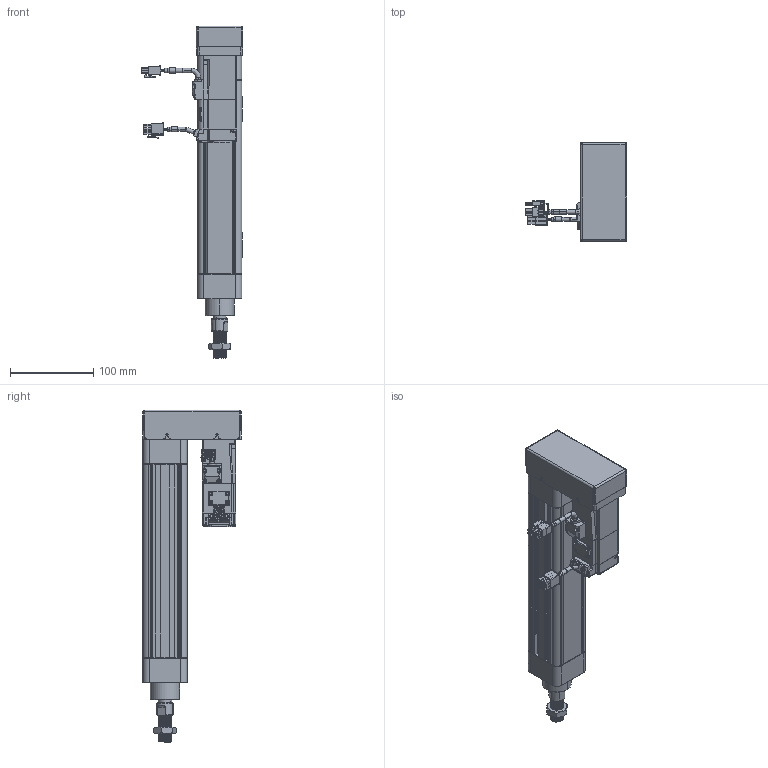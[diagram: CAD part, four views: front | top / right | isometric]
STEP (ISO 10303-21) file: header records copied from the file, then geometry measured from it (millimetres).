
FILE_DESCRIPTION (( 'STEP AP203' ), '1' );
FILE_NAME ('VEC50-10-C-150-MF-ZP10B-MS2.STEP', '2019-01-26T02:49:06', ( 'vobosh 6' ), ( 'Microsoft' ), 'SwSTEP 2.0', 'SolidWorks 2016', '' );
FILE_SCHEMA (( 'CONFIG_CONTROL_DESIGN' ));
Length unit declared in the file: millimetre
Products named in the file (12): VEC50-10-C-150-MF-ZP10B-MS2; 柈ч肣薦え耳9x耳8.5x4.4; VEC50-MF-200-011-X1; CS1-M; 鞠褒蹟譫M16x1.5; VEC50-MF-200-004-X1; VEC50-MF-200-001-X1; MHMF012L1V2; VEC50-MF-200-002-X1; VEC50-MF-200-005-X1; VEC50-MF-200-003-X1; 带尾螺母M6x9x45（镀镍）
Assembly tree (20 placements, depth 2):
  VEC50-10-C-150-MF-ZP10B-MS2
    VEC50-MF-200-001-X1
    VEC50-MF-200-002-X1
    VEC50-MF-200-003-X1
    带尾螺母M6x9x45（镀镍）  x8
    柈ч肣薦え耳9x耳8.5x4.4  x2
    VEC50-MF-200-011-X1
    CS1-M  x2
    鞠褒蹟譫M16x1.5
    VEC50-MF-200-004-X1
    MHMF012L1V2
    VEC50-MF-200-005-X1
Bounding box: 122.5 x 118 x 399 mm (x, y, z)
Volume: 700705.6 mm3; surface area: 254245.2 mm2
Topology: 27 solids, 27 shells, 1970 faces, 4861 edges, 3048 vertices
Faces by surface type: plane 902, cylinder 703, cone 239, bspline 117, torus 9
Entity records: 59744 total; most frequent: CARTESIAN_POINT 16772, DIRECTION 8631, ORIENTED_EDGE 8630, EDGE_CURVE 4315, AXIS2_PLACEMENT_3D 2988, VERTEX_POINT 2755, VECTOR 2655, LINE 2655
